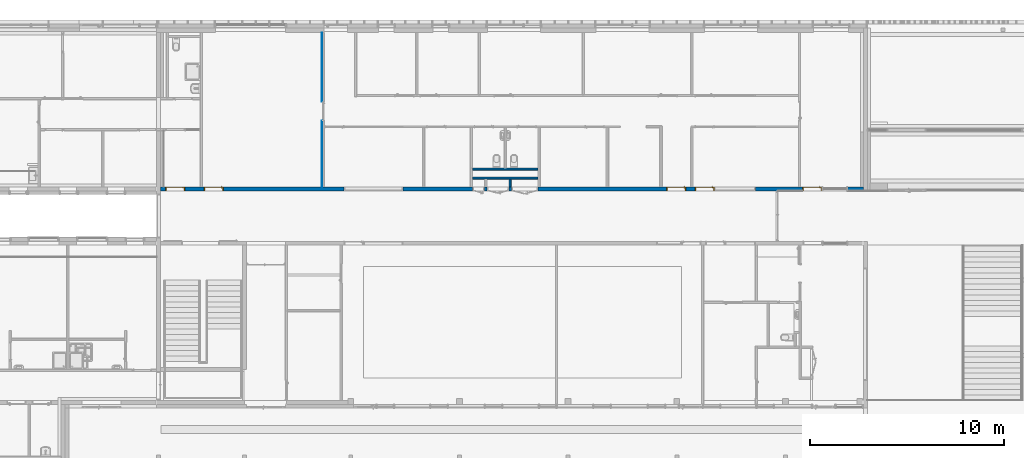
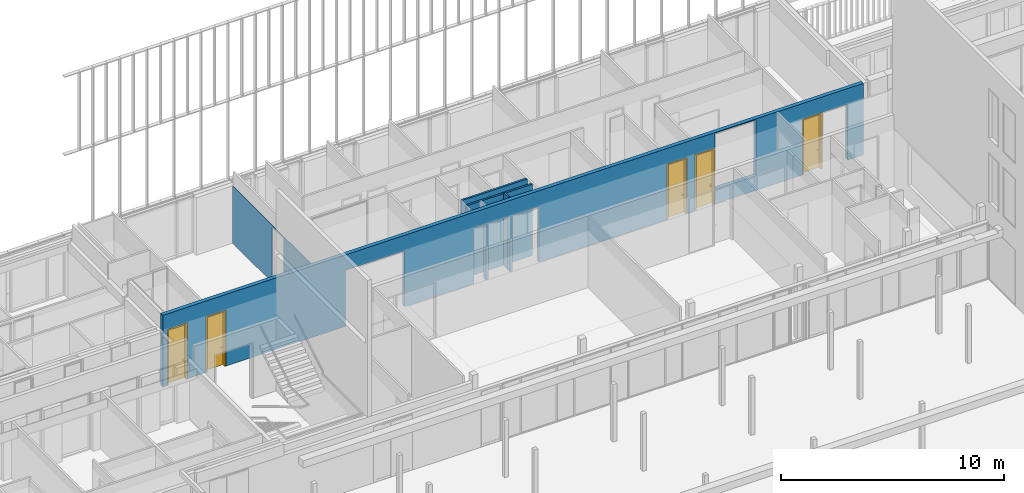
# One storey, part 137 of 240: 5 doors, 5 walls, 12 openings.
"""IFC2X3 building model written with IfcOpenShell, lengths in centimetres."""

from ifc_helpers import new_model, entity, si_unit, converted_unit, derived_unit, direction, frame, frame_2d, origin, place, context, subcontext, project, spatial, polyline, rectangle, extrude, clip, bounded_halfspace, faceted_brep, source, transform, mapped, material, material_list, layer, layer_set, layer_usage, type_object, type_shapes, element, fill, save


model = new_model("IFC2X3")

# Units and contexts
model_context = context("Model", 3, precision=0.001, world=origin(), true_north=direction((6.12303176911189e-17, 1.0)))
body_context = subcontext(model_context, "Body", "Model", "MODEL_VIEW")
ifc_project = project(units=[si_unit("LENGTHUNIT", "METRE", prefix="CENTI"), si_unit("AREAUNIT", "SQUARE_METRE"), si_unit("VOLUMEUNIT", "CUBIC_METRE"), converted_unit("PLANEANGLEUNIT", "DEGREE", entity("IfcRatioMeasure", 0.0174532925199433), si_unit("PLANEANGLEUNIT", "RADIAN"), dimensions=[0, 0, 0, 0, 0, 0, 0]), si_unit("MASSUNIT", "GRAM", prefix="KILO"), derived_unit("MASSDENSITYUNIT", [(si_unit("MASSUNIT", "GRAM", prefix="KILO"), 1), (si_unit("LENGTHUNIT", "METRE"), -3)]), si_unit("TIMEUNIT", "SECOND"), si_unit("FREQUENCYUNIT", "HERTZ"), si_unit("THERMODYNAMICTEMPERATUREUNIT", "DEGREE_CELSIUS"), derived_unit("THERMALTRANSMITTANCEUNIT", [(si_unit("MASSUNIT", "GRAM", prefix="KILO"), 1), (si_unit("THERMODYNAMICTEMPERATUREUNIT", "KELVIN"), -1), (si_unit("TIMEUNIT", "SECOND"), -3)]), derived_unit("VOLUMETRICFLOWRATEUNIT", [(si_unit("LENGTHUNIT", "METRE"), 3), (si_unit("TIMEUNIT", "SECOND"), -1)]), si_unit("ELECTRICCURRENTUNIT", "AMPERE"), si_unit("ELECTRICVOLTAGEUNIT", "VOLT"), si_unit("POWERUNIT", "WATT"), si_unit("FORCEUNIT", "NEWTON", prefix="KILO"), si_unit("ILLUMINANCEUNIT", "LUX"), si_unit("LUMINOUSFLUXUNIT", "LUMEN"), si_unit("LUMINOUSINTENSITYUNIT", "CANDELA"), derived_unit("USERDEFINED", [(si_unit("MASSUNIT", "GRAM", prefix="KILO"), -1), (si_unit("LENGTHUNIT", "METRE"), -2), (si_unit("TIMEUNIT", "SECOND"), 3), (si_unit("LUMINOUSFLUXUNIT", "LUMEN"), 1)]), derived_unit("LINEARVELOCITYUNIT", [(si_unit("LENGTHUNIT", "METRE"), 1), (si_unit("TIMEUNIT", "SECOND"), -1)]), si_unit("PRESSUREUNIT", "PASCAL"), derived_unit("USERDEFINED", [(si_unit("LENGTHUNIT", "METRE"), -2), (si_unit("MASSUNIT", "GRAM", prefix="KILO"), 1), (si_unit("TIMEUNIT", "SECOND"), -2)])], contexts=[model_context])

# Site, building, storey
site_placement = place(None, frame((-2781.94577612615, 7442.24238424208, 0.0)))
site = spatial("IfcSite", under=ifc_project, at=site_placement, Name="Default", CompositionType="ELEMENT")
building_placement = place(site_placement, origin())
building = spatial("IfcBuilding", under=site, at=building_placement, CompositionType="ELEMENT")
storey_placement = place(building_placement, origin())
storey = spatial("IfcBuildingStorey", under=building, at=storey_placement, Name="N00 - COO", CompositionType="ELEMENT", Elevation=0.0)

# Wall, openings, doors
ifc_material_1 = material(Name="01 - Maçonnerie")
ifc_layer_1 = layer(ifc_material_1, 20.0)
ifc_layer_set_1 = layer_set([ifc_layer_1], Name="Mur de base:04 - Structure - béton - 20cm")
ifc_layer_usage_1 = layer_usage(ifc_layer_set_1, "AXIS2", "NEGATIVE", 10.0)
wall_type_1 = type_object("IfcWallType", Name="Mur de base:04 - Structure - béton - 20cm", PredefinedType="STANDARD", material=ifc_layer_set_1)
wall_1_placement = place(building_placement, frame((-8409.49987766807, -820.048500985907, 0.0)))
wall_1 = element("IfcWallStandardCase", 1, at=wall_1_placement, inside=storey, type_object=wall_type_1, material=ifc_layer_usage_1, Name="Mur de base:04 - Structure - béton - 20cm", ObjectType="Mur de base:04 - Structure - béton - 20cm", context=body_context, shape_type="Clipping", body=[
    clip(extrude(rectangle(XDim=3621.50000006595, YDim=20.0, at=frame_2d((1810.75000003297, -1.59872115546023e-14), x_axis=(-1.0, 0.0))), origin(), (0.0, 0.0, 1.0), 391.0), bounded_halfspace(frame((0.0, -10.0, 391.0), z_axis=(0.0, 0.0, -1.0), x_axis=(0.0, 1.0, 0.0)), True, frame((0.0, -10.0, 391.0), z_axis=(0.0, 0.0, -1.0), x_axis=(0.0, 1.0, 0.0)), polyline([(0.0, 0.0), (20.0, 0.0), (20.0, 205.0), (20.0, 215.0), (20.0, 833.250000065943), (20.0, 843.250000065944), (20.0, 1351.0), (20.0, 1361.0), (20.0, 1603.69999798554), (20.0, 1671.0), (20.0, 1680.69999798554), (20.0, 1799.69999798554), (20.0, 1946.0), (20.0, 1956.0), (20.0, 2296.0), (20.0, 2306.0), (20.0, 2573.0), (20.0, 2583.0), (20.0, 2733.0), (20.0, 2743.0), (20.0, 3287.0), (20.0, 3297.0), (20.0, 3621.50000006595), (0.0, 3621.50000006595), (0.0, 3182.0), (0.0, 3172.0), (0.0, 0.0)]))),
])
opening_1_placement = place(wall_1_placement, origin())
element("IfcOpeningElement", 2, at=opening_1_placement, cuts=wall_1, Name="Mur de base:04 - Structure - béton - 20cm", ObjectType="Opening", context=body_context, shape_type="SweptSolid", body=[
    extrude(rectangle(XDim=306.0, YDim=133.000000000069, at=frame_2d((0.0, 4.33431068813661e-13), x_axis=(1.0, 0.0))), frame((3473.50000006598, -25.24, 153.0), z_axis=(0.0, 1.0, 0.0), x_axis=(0.0, 0.0, 1.0)), (0.0, 0.0, 1.0), 50.48),
])
opening_2_placement = place(wall_1_placement, frame((225.0, -10.0, 0.0)))
opening_2 = element("IfcOpeningElement", 3, at=opening_2_placement, cuts=wall_1, Name="Int. Simple:PV (0.93m x 3.00m):1", ObjectType="Opening", context=body_context, shape_type="SweptSolid", body=[
    extrude(rectangle(XDim=304.500000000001, YDim=99.9999999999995, at=frame_2d((152.250000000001, 50.0), x_axis=(1.0, 0.0))), frame((0.0, 0.0, 0.0), z_axis=(0.0, 1.0, 0.0), x_axis=(0.0, 0.0, 1.0)), (0.0, 0.0, 1.0), 20.0),
])
opening_3_placement = place(wall_1_placement, frame((2608.0, -10.0, 0.0)))
opening_3 = element("IfcOpeningElement", 4, at=opening_3_placement, cuts=wall_1, Name="Int. Simple:PV (0.93m x 3.00m):1", ObjectType="Opening", context=body_context, shape_type="SweptSolid", body=[
    extrude(rectangle(XDim=304.500000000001, YDim=99.9999999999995, at=frame_2d((152.250000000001, 50.0), x_axis=(1.0, 0.0))), frame((0.0, 0.0, 0.0), z_axis=(0.0, 1.0, 0.0), x_axis=(0.0, 0.0, 1.0)), (0.0, 0.0, 1.0), 20.0),
])
opening_4_placement = place(wall_1_placement, frame((2753.0, -10.0, 0.0)))
opening_4 = element("IfcOpeningElement", 5, at=opening_4_placement, cuts=wall_1, Name="Int. Simple:PV (0.93m x 3.00m):1", ObjectType="Opening", context=body_context, shape_type="SweptSolid", body=[
    extrude(rectangle(XDim=304.500000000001, YDim=99.9999999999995, at=frame_2d((152.250000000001, 50.0), x_axis=(1.0, 0.0))), frame((0.0, 0.0, 0.0), z_axis=(0.0, 1.0, 0.0), x_axis=(0.0, 0.0, 1.0)), (0.0, 0.0, 1.0), 20.0),
])
opening_5_placement = place(wall_1_placement, frame((3307.0, -10.0, 0.0)))
opening_5 = element("IfcOpeningElement", 6, at=opening_5_placement, cuts=wall_1, Name="Int. Simple:PV (0.93m x 3.00m):1", ObjectType="Opening", context=body_context, shape_type="SweptSolid", body=[
    extrude(rectangle(XDim=304.500000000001, YDim=99.9999999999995, at=frame_2d((152.250000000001, 50.0), x_axis=(1.0, 0.0))), frame((0.0, 0.0, 0.0), z_axis=(0.0, 1.0, 0.0), x_axis=(0.0, 0.0, 1.0)), (0.0, 0.0, 1.0), 20.0),
])
opening_6_placement = place(wall_1_placement, frame((1944.50000006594, 10.0, 0.0)))
element("IfcOpeningElement", 7, at=opening_6_placement, cuts=wall_1, Name="Int. Double:PP Placard (1.26m x 2.04m):1", ObjectType="Opening", context=body_context, shape_type="SweptSolid", body=[
    extrude(rectangle(XDim=304.500000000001, YDim=137.0, at=frame_2d((152.250000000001, 68.5), x_axis=(1.0, 0.0))), frame((0.0, 0.0, 0.0), z_axis=(0.0, -1.0, 0.0), x_axis=(0.0, 0.0, 1.0)), (0.0, 0.0, 1.0), 20.0),
])
opening_7_placement = place(wall_1_placement, frame((1794.50000006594, 10.0, 0.0)))
element("IfcOpeningElement", 8, at=opening_7_placement, cuts=wall_1, Name="Int. Double:PP Placard (1.05m x 3.00m):1", ObjectType="Opening", context=body_context, shape_type="SweptSolid", body=[
    extrude(rectangle(XDim=304.500000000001, YDim=112.0, at=frame_2d((152.250000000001, 56.0000000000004), x_axis=(1.0, 0.0))), frame((0.0, 0.0, 0.0), z_axis=(0.0, -1.0, 0.0), x_axis=(0.0, 0.0, 1.0)), (0.0, 0.0, 1.0), 20.0),
])
opening_8_placement = place(wall_1_placement, frame((1669.50000006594, 10.0, 0.0)))
element("IfcOpeningElement", 9, at=opening_8_placement, cuts=wall_1, Name="Int. Simple:PP Placard (0.55m x 3.00m):1", ObjectType="Opening", context=body_context, shape_type="SweptSolid", body=[
    extrude(rectangle(XDim=304.500000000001, YDim=61.9999999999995, at=frame_2d((152.250000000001, 30.9999999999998), x_axis=(1.0, 0.0))), frame((0.0, 0.0, 0.0), z_axis=(0.0, -1.0, 0.0), x_axis=(0.0, 0.0, 1.0)), (0.0, 0.0, 1.0), 20.0),
])
opening_9_placement = place(wall_1_placement, frame((945.0, -10.0, 0.0)))
element("IfcOpeningElement", 10, at=opening_9_placement, cuts=wall_1, Name="châssis intérieur vitré:châssis intérieur vitré (h=306):1", ObjectType="Opening", context=body_context, shape_type="SweptSolid", body=[
    extrude(rectangle(XDim=306.0, YDim=304.999999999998, at=frame_2d((153.0, 152.499999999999), x_axis=(1.0, 0.0))), frame((0.0, 0.0, 0.0), z_axis=(0.0, 1.0, 0.0), x_axis=(0.0, 0.0, 1.0)), (0.0, 0.0, 1.0), 20.0),
])
opening_10_placement = place(wall_1_placement, frame((25.2999999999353, -10.0, 0.0)))
opening_10 = element("IfcOpeningElement", 11, at=opening_10_placement, cuts=wall_1, Name="Int. Simple:PV (0.93m x 3.00m):1", ObjectType="Opening", context=body_context, shape_type="SweptSolid", body=[
    extrude(rectangle(XDim=304.500000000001, YDim=99.9999999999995, at=frame_2d((152.250000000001, 50.0), x_axis=(1.0, 0.0))), frame((0.0, 0.0, 0.0), z_axis=(0.0, 1.0, 0.0), x_axis=(0.0, 0.0, 1.0)), (0.0, 0.0, 1.0), 20.0),
])
opening_11_placement = place(wall_1_placement, frame((2853.0, -10.0, 80.0)))
element("IfcOpeningElement", 12, at=opening_11_placement, cuts=wall_1, Name="châssis intérieur vitré:châssis intérieur vitré (h=306):1", ObjectType="Opening", context=body_context, shape_type="SweptSolid", body=[
    extrude(rectangle(XDim=306.0, YDim=212.0, at=frame_2d((153.0, 106.0), x_axis=(1.0, 0.0))), frame((0.0, 0.0, 0.0), z_axis=(0.0, 1.0, 0.0), x_axis=(0.0, 0.0, 1.0)), (0.0, 0.0, 1.0), 20.0),
])
ifc_material_2 = material(Name="Finition Peinture - Blanc satiné")
ifc_material_3 = material(Name="Bois - Panneau de porte")
ifc_material_4 = material(Name="Bois - Cadre de porte")
ifc_material_list_1 = material_list([ifc_material_2, ifc_material_3, ifc_material_4])
ifc_material_list_2 = material_list([ifc_material_2, ifc_material_3, ifc_material_4])
door_style = type_object("IfcDoorStyle", Name="PV (0.93m x 3.00m)", ConstructionType="NOTDEFINED", OperationType="SINGLE_SWING_LEFT", ParameterTakesPrecedence=False, Sizeable=False, material=ifc_material_list_2)
shared_shape = source(origin(), body_context, "Body", "Brep", [
    faceted_brep([(10.5352761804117, -0.500000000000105, 86.6003983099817), (11.5000000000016, -0.500000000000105, 87.0), (11.5000000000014, -0.500000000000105, 108.0), (10.5352761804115, -0.500000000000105, 108.399601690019), (9.50000000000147, -0.500000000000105, 108.535898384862), (8.46472381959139, -0.500000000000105, 108.399601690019), (7.50000000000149, -0.500000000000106, 108.0), (7.50000000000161, -0.500000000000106, 87.0), (8.46472381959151, -0.500000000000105, 86.6003983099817), (9.50000000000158, -0.500000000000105, 86.464101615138), (10.5352761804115, 0.0, 108.399601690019), (11.5000000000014, 0.0, 108.0), (11.5000000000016, 0.0, 87.0), (10.5352761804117, 0.0, 86.6003983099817), (9.50000000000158, 0.0, 86.464101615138), (8.46472381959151, 0.0, 86.6003983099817), (7.50000000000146, 0.0, 87.0), (7.50000000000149, 0.0, 108.0), (8.46472381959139, 0.0, 108.399601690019), (9.50000000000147, 0.0, 108.535898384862)], [[[0, 1, 2, 3, 4, 5, 6, 7, 8, 9]], [[10, 11, 12, 13, 14, 15, 16, 17, 18, 19]], [[16, 15, 8, 7]], [[8, 15, 14, 9]], [[14, 13, 0, 9]], [[13, 12, 1, 0]], [[2, 1, 12, 11]], [[11, 10, 3, 2]], [[3, 10, 19, 4]], [[19, 18, 5, 4]], [[18, 17, 6, 5]], [[7, 6, 17, 16]]]),
    faceted_brep([(10.5352761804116, 4.0, 86.6003983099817), (11.5000000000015, 4.0, 87.0), (11.5000000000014, 4.0, 108.0), (10.5352761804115, 4.0, 108.399601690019), (9.50000000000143, 4.0, 108.535898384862), (8.46472381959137, 4.0, 108.399601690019), (7.50000000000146, 4.0, 108.0), (7.50000000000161, 4.0, 87.0), (8.46472381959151, 4.0, 86.6003983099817), (9.50000000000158, 4.0, 86.464101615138), (10.5352761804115, 4.49999999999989, 108.399601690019), (11.5000000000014, 4.49999999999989, 108.0), (11.5000000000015, 4.49999999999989, 87.0), (10.5352761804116, 4.49999999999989, 86.6003983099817), (9.50000000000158, 4.49999999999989, 86.464101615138), (8.46472381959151, 4.49999999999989, 86.6003983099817), (7.50000000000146, 4.49999999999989, 87.0), (7.50000000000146, 4.49999999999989, 108.0), (8.46472381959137, 4.49999999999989, 108.399601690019), (9.50000000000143, 4.49999999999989, 108.535898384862)], [[[0, 1, 2, 3, 4, 5, 6, 7, 8, 9]], [[10, 11, 12, 13, 14, 15, 16, 17, 18, 19]], [[11, 10, 3, 2]], [[3, 10, 19, 4]], [[19, 18, 5, 4]], [[18, 17, 6, 5]], [[7, 6, 17, 16]], [[16, 15, 8, 7]], [[8, 15, 14, 9]], [[14, 13, 0, 9]], [[13, 12, 1, 0]], [[2, 1, 12, 11]]]),
    faceted_brep([(9.29747013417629, -0.500000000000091, 100.778044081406), (9.70252986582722, -0.500000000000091, 100.778044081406), (10.1000000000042, -0.500000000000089, 100.699999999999), (10.1000000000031, -0.500000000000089, 99.3000000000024), (9.7025298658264, -0.500000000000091, 99.2219559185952), (9.29747013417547, -0.500000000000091, 99.221955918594), (8.8999999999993, -0.500000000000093, 99.2999999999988), (8.89999999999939, -0.500000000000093, 100.7), (8.89999999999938, -3.26509507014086, 100.7), (9.29747013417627, -3.10045754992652, 100.778044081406), (10.9023585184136, -4.70534593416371, 100.778044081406), (11.0701397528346, -4.30028620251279, 100.778044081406), (9.7025298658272, -2.93267631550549, 100.778044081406), (10.1000000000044, -2.76803879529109, 100.7), (10.1000000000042, -2.76803879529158, 99.3000000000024), (9.7025298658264, -2.93267631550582, 99.2219559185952), (11.0701397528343, -4.30028620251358, 99.2219559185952), (10.9023585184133, -4.70534593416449, 99.221955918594), (9.29747013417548, -3.10045754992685, 99.221955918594), (8.89999999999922, -3.26509507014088, 99.2999999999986), (10.7377209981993, -5.10281606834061, 100.7), (11.2347772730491, -3.90281606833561, 100.7), (11.2347772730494, -3.90281606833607, 99.3000000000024), (10.7377209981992, -5.10281606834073, 99.2999999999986), (19.5018640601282, -5.1028160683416, 99.2999999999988), (19.5018640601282, -4.70534593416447, 99.221955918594), (19.5018640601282, -4.30028620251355, 99.2219559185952), (19.5018640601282, -3.90281606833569, 99.3000000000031), (19.5018640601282, -3.90281606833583, 100.7), (19.5018640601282, -4.30028620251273, 100.778044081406), (19.5018640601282, -4.70534593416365, 100.778044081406), (19.5018640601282, -5.10281606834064, 100.699999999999), (14.7307697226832, -5.10281606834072, 100.7), (15.2860019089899, -4.5028160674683, 100.78786867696), (15.3683206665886, -3.9028160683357, 100.7), (15.3683206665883, -3.90281606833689, 99.3000000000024), (15.2860018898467, -4.50281607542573, 99.2121313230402), (14.7307700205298, -5.10281606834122, 99.2999999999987)], [[[0, 1, 2, 3, 4, 5, 6, 7]], [[8, 9, 0, 7]], [[9, 10, 11, 12, 1, 0]], [[12, 13, 2, 1]], [[3, 2, 13, 14]], [[14, 15, 4, 3]], [[15, 16, 17, 18, 5, 4]], [[18, 19, 6, 5]], [[7, 6, 19, 8]], [[20, 10, 9, 8]], [[11, 21, 13, 12]], [[14, 13, 21, 22]], [[22, 16, 15, 14]], [[17, 23, 19, 18]], [[8, 19, 23, 20]], [[24, 25, 26, 27, 28, 29, 30, 31]], [[32, 30, 33]], [[31, 30, 32]], [[10, 20, 32]], [[33, 34, 11]], [[21, 11, 34]], [[34, 29, 28]], [[30, 29, 33]], [[29, 34, 33]], [[10, 32, 33]], [[10, 33, 11]], [[22, 21, 34, 28, 27, 35]], [[35, 26, 36]], [[37, 36, 25]], [[22, 35, 16]], [[35, 27, 26]], [[24, 37, 25]], [[23, 17, 37]], [[37, 17, 36]], [[17, 16, 36]], [[16, 35, 36]], [[25, 36, 26]], [[20, 23, 37, 24, 31, 32]]]),
    faceted_brep([(9.29747013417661, 4.49999999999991, 100.778044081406), (8.89999999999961, 4.4999999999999, 100.7), (8.89999999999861, 4.4999999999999, 99.2999999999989), (9.29747013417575, 4.49999999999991, 99.221955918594), (9.70252986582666, 4.49999999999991, 99.2219559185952), (10.1000000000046, 4.49999999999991, 99.3000000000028), (10.1000000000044, 4.49999999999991, 100.7), (9.70252986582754, 4.49999999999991, 100.778044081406), (10.1000000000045, 6.7485204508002, 99.3000000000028), (10.1000000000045, 6.74852045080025, 100.7), (9.70252986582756, 6.91315797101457, 100.778044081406), (11.083890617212, 8.29451872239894, 100.778044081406), (10.916109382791, 8.69957845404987, 100.778044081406), (9.29747013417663, 7.0809392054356, 100.778044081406), (8.89999999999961, 7.24557672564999, 100.7), (8.89999999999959, 7.2455767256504, 99.2999999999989), (9.29747013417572, 7.08093920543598, 99.221955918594), (10.9161093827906, 8.69957845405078, 99.221955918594), (11.0838906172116, 8.29451872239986, 99.2219559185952), (9.70252986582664, 6.91315797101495, 99.2219559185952), (11.2485281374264, 7.89704858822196, 99.3000000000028), (11.2485281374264, 7.89704858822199, 100.7), (10.7514718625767, 9.09704858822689, 100.7), (10.7514718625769, 9.0970485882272, 99.2999999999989), (19.5045783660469, 7.89704858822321, 99.3000000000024), (19.5045783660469, 8.29451872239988, 99.2219559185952), (19.5045783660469, 8.6995784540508, 99.221955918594), (19.5045783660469, 9.09704858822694, 99.2999999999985), (19.5045783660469, 9.09704858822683, 100.7), (19.5045783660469, 8.69957845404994, 100.778044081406), (19.5045783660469, 8.29451872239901, 100.778044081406), (19.5045783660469, 7.89704858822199, 100.7), (15.3765520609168, 7.89704858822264, 99.3000000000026), (15.3765532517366, 7.89704858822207, 100.7), (15.294234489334, 8.49704858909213, 100.78786867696), (14.7445205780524, 9.09704858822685, 100.7), (14.7445204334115, 9.09704858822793, 99.2999999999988), (15.2942345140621, 8.49704858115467, 99.2121313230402)], [[[0, 1, 2, 3, 4, 5, 6, 7]], [[6, 5, 8, 9]], [[9, 10, 7, 6]], [[10, 11, 12, 13, 0, 7]], [[13, 14, 1, 0]], [[2, 1, 14, 15]], [[15, 16, 3, 2]], [[16, 17, 18, 19, 4, 3]], [[19, 8, 5, 4]], [[9, 8, 20, 21]], [[21, 11, 10, 9]], [[12, 22, 14, 13]], [[15, 14, 22, 23]], [[23, 17, 16, 15]], [[18, 20, 8, 19]], [[24, 25, 26, 27, 28, 29, 30, 31]], [[21, 20, 32, 24, 31, 33]], [[33, 30, 34]], [[35, 34, 29]], [[21, 33, 11]], [[33, 31, 30]], [[28, 35, 29]], [[22, 12, 35]], [[35, 12, 34]], [[12, 11, 34]], [[11, 33, 34]], [[29, 34, 30]], [[22, 35, 28, 27, 36, 23]], [[36, 26, 37]], [[27, 26, 36]], [[17, 23, 36]], [[37, 32, 18]], [[20, 18, 32]], [[32, 25, 24]], [[26, 25, 37]], [[25, 32, 37]], [[17, 36, 37]], [[17, 37, 18]]]),
    faceted_brep([(3.50000000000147, 4.0, 301.0), (96.5000000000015, 4.0, 301.0), (96.5000000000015, 4.0, 0.0), (3.50000000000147, 4.0, 0.0), (3.50000000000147, 0.0, 301.0), (3.50000000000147, 0.0, 0.0), (96.5000000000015, 0.0, 0.0), (96.5000000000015, 0.0, 301.0)], [[[0, 1, 2, 3]], [[4, 5, 6, 7]], [[1, 0, 4, 7]], [[2, 1, 7, 6]], [[3, 2, 6, 5]], [[0, 3, 5, 4]]]),
    faceted_brep([(0.0, 20.0, 0.0), (-1.50000000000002, 20.0, 0.0), (-1.50000000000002, 20.5000000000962, 0.0), (5.0, 20.5000000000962, 0.0), (5.0, 4.0, 0.0), (3.50000000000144, 4.0, 0.0), (3.50000000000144, -0.500000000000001, 0.0), (-1.50000000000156, -0.500000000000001, 0.0), (-1.50000000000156, 0.0, 0.0), (0.0, 0.0, 0.0), (0.0, 20.0, 304.500000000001), (100.0, 20.0, 304.500000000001), (100.0, 20.0, 0.0), (101.5, 20.0, 0.0), (101.5, 20.0, 306.0), (-1.50000000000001, 20.0, 306.0), (-1.50000000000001, 20.5000000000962, 306.0), (101.5, 20.5000000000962, 306.0), (101.5, 20.5000000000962, 0.0), (95.0, 20.5000000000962, 0.0), (95.0, 20.5000000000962, 299.5), (5.0, 20.5000000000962, 299.5), (5.0, 4.0, 299.5), (95.0, 4.0, 299.5), (95.0, 4.0, 0.0), (96.4999999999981, 4.0, 0.0), (96.4999999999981, 4.0, 301.0), (3.50000000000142, 4.0, 301.0), (3.50000000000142, -0.500000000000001, 301.0), (96.4999999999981, -0.500000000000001, 301.0), (96.4999999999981, -0.500000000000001, 0.0), (101.500000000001, -0.500000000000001, 0.0), (101.500000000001, -0.500000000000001, 306.0), (-1.50000000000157, -0.500000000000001, 306.0), (-1.50000000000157, 0.0, 306.0), (101.500000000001, 0.0, 306.0), (101.500000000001, 0.0, 0.0), (100.0, 0.0, 0.0), (100.0, 0.0, 304.500000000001), (0.0, 0.0, 304.500000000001)], [[[0, 1, 2, 3, 4, 5, 6, 7, 8, 9]], [[1, 0, 10, 11, 12, 13, 14, 15]], [[2, 1, 15, 16]], [[3, 2, 16, 17, 18, 19, 20, 21]], [[3, 21, 22, 4]], [[5, 4, 22, 23, 24, 25, 26, 27]], [[5, 27, 28, 6]], [[7, 6, 28, 29, 30, 31, 32, 33]], [[8, 7, 33, 34]], [[9, 8, 34, 35, 36, 37, 38, 39]], [[0, 9, 39, 10]], [[11, 38, 37, 12]], [[12, 37, 36, 31, 30, 25, 24, 19, 18, 13]], [[17, 14, 13, 18]], [[23, 20, 19, 24]], [[29, 26, 25, 30]], [[35, 32, 31, 36]], [[10, 39, 38, 11]], [[16, 15, 14, 17]], [[22, 21, 20, 23]], [[28, 27, 26, 29]], [[34, 33, 32, 35]]]),
])
type_shapes(door_style, [shared_shape])
door_1_placement = place(opening_2_placement, frame((100.0, 20.0, 0.0), z_axis=(0.0, 0.0, 1.0), x_axis=(-1.0, 0.0, 0.0)))
door_1 = element("IfcDoor", 13, at=door_1_placement, inside=storey, type_object=door_style, material=ifc_material_list_1, Name="Int. Simple:PV (0.93m x 3.00m)", ObjectType="Int. Simple:PV (0.93m x 3.00m)", OverallHeight=304.500000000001, OverallWidth=99.9999999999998, context=body_context, shape_type="MappedRepresentation", body=[
    mapped(shared_shape, transform((0.0, 0.0, 0.0), scale=1.0)),
])
fill(opening_2, door_1)
ifc_material_list_3 = material_list([ifc_material_2, ifc_material_3, ifc_material_4])
door_2_placement = place(opening_3_placement, frame((100.0, 20.0, 0.0), z_axis=(0.0, 0.0, 1.0), x_axis=(-1.0, 0.0, 0.0)))
door_2 = element("IfcDoor", 14, at=door_2_placement, inside=storey, type_object=door_style, material=ifc_material_list_3, Name="Int. Simple:PV (0.93m x 3.00m)", ObjectType="Int. Simple:PV (0.93m x 3.00m)", OverallHeight=304.500000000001, OverallWidth=99.9999999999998, context=body_context, shape_type="MappedRepresentation", body=[
    mapped(shared_shape, transform((0.0, 0.0, 0.0), scale=1.0)),
])
fill(opening_3, door_2)
ifc_material_list_4 = material_list([ifc_material_2, ifc_material_3, ifc_material_4])
door_3_placement = place(opening_4_placement, frame((100.0, 20.0, 0.0), z_axis=(0.0, 0.0, 1.0), x_axis=(-1.0, 0.0, 0.0)))
door_3 = element("IfcDoor", 15, at=door_3_placement, inside=storey, type_object=door_style, material=ifc_material_list_4, Name="Int. Simple:PV (0.93m x 3.00m)", ObjectType="Int. Simple:PV (0.93m x 3.00m)", OverallHeight=304.500000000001, OverallWidth=99.9999999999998, context=body_context, shape_type="MappedRepresentation", body=[
    mapped(shared_shape, transform((0.0, 0.0, 0.0), scale=1.0)),
])
fill(opening_4, door_3)
ifc_material_list_5 = material_list([ifc_material_2, ifc_material_3, ifc_material_4])
door_4_placement = place(opening_5_placement, frame((100.0, 20.0, 0.0), z_axis=(0.0, 0.0, 1.0), x_axis=(-1.0, 0.0, 0.0)))
door_4 = element("IfcDoor", 16, at=door_4_placement, inside=storey, type_object=door_style, material=ifc_material_list_5, Name="Int. Simple:PV (0.93m x 3.00m)", ObjectType="Int. Simple:PV (0.93m x 3.00m)", OverallHeight=304.500000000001, OverallWidth=99.9999999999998, context=body_context, shape_type="MappedRepresentation", body=[
    mapped(shared_shape, transform((0.0, 0.0, 0.0), scale=1.0)),
])
fill(opening_5, door_4)
ifc_material_list_6 = material_list([ifc_material_2, ifc_material_3, ifc_material_4])
door_5_placement = place(opening_10_placement, frame((100.0, 20.0, 0.0), z_axis=(0.0, 0.0, 1.0), x_axis=(-1.0, 0.0, 0.0)))
door_5 = element("IfcDoor", 17, at=door_5_placement, inside=storey, type_object=door_style, material=ifc_material_list_6, Name="Int. Simple:PV (0.93m x 3.00m)", ObjectType="Int. Simple:PV (0.93m x 3.00m)", OverallHeight=304.500000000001, OverallWidth=99.9999999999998, context=body_context, shape_type="MappedRepresentation", body=[
    mapped(shared_shape, transform((0.0, 0.0, 0.0), scale=1.0)),
])
fill(opening_10, door_5)

# Walls
ifc_material_5 = material(Name="01 - Enduit/Plâtre")
ifc_layer_2 = layer(ifc_material_5, 1.3)
ifc_material_6 = material(Name="00 - Isolant")
ifc_layer_3 = layer(ifc_material_6, 7.4)
ifc_layer_4 = layer(ifc_material_5, 1.3)
ifc_layer_set_2 = layer_set([ifc_layer_2, ifc_layer_3, ifc_layer_4], Name="Mur de base:06 - cloisons - Ba13 10cm")
ifc_layer_usage_2 = layer_usage(ifc_layer_set_2, "AXIS2", "NEGATIVE", 5.0)
wall_type_2 = type_object("IfcWallType", Name="Mur de base:06 - cloisons - Ba13 10cm", PredefinedType="STANDARD", material=ifc_layer_set_2)
wall_2_placement = place(building_placement, frame((-6803.49987760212, -718.0, 0.0)))
element("IfcWallStandardCase", 18, at=wall_2_placement, inside=storey, type_object=wall_type_2, material=ifc_layer_usage_2, Name="Mur de base:06 - cloisons - Ba13 10cm", ObjectType="Mur de base:06 - cloisons - Ba13 10cm", context=body_context, shape_type="Clipping", body=[
    clip(extrude(rectangle(XDim=339.999999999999, YDim=10.0000000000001, at=frame_2d((169.999999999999, -1.55431223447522e-14), x_axis=(-1.0, 0.0))), origin(), (0.0, 0.0, 1.0), 391.0), bounded_halfspace(frame((0.0, -5.0, 391.0), z_axis=(0.0, 0.0, -1.0), x_axis=(0.0, 1.0, 0.0)), True, frame((0.0, -5.0, 391.0)), polyline([(0.0, 0.0), (340.0, 0.0), (340.0, 10.0), (175.0, 10.0), (165.0, 10.0), (0.0, 10.0), (0.0, 0.0)]))),
])
ifc_layer_usage_3 = layer_usage(ifc_layer_set_2, "AXIS2", "NEGATIVE", 5.0)
wall_3_placement = place(building_placement, frame((-6803.49987760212, -765.048500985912, 0.0)))
element("IfcWallStandardCase", 19, at=wall_3_placement, inside=storey, type_object=wall_type_2, material=ifc_layer_usage_3, Name="Mur de base:06 - cloisons - Ba13 10cm", ObjectType="Mur de base:06 - cloisons - Ba13 10cm", context=body_context, shape_type="Clipping", body=[
    clip(extrude(rectangle(XDim=339.999999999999, YDim=10.0000000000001, at=frame_2d((169.999999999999, 0.0), x_axis=(-1.0, 0.0))), origin(), (0.0, 0.0, 1.0), 391.0), bounded_halfspace(frame((0.0, -5.0, 391.0), z_axis=(0.0, 0.0, -1.0), x_axis=(0.0, 1.0, 0.0)), True, frame((0.0, -5.0, 391.0)), polyline([(0.0, 0.0), (65.0, 0.0), (74.6999979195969, 0.0), (193.699997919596, 0.0), (340.0, 0.0), (340.0, 10.0), (0.0, 10.0), (0.0, 0.0)]))),
])
ifc_layer_usage_4 = layer_usage(ifc_layer_set_2, "AXIS2", "NEGATIVE", 5.0)
wall_4_placement = place(building_placement, frame((-6608.49987760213, -770.048500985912, 0.0), z_axis=(0.0, 0.0, 1.0), x_axis=(0.0, -1.0, 0.0)))
element("IfcWallStandardCase", 20, at=wall_4_placement, inside=storey, type_object=wall_type_2, material=ifc_layer_usage_4, Name="Mur de base:06 - cloisons - Ba13 10cm", ObjectType="Mur de base:06 - cloisons - Ba13 10cm", context=body_context, shape_type="SweptSolid", body=[
    extrude(rectangle(XDim=40.0, YDim=9.99999999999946, at=frame_2d((20.0, 0.0), x_axis=(-1.0, 0.0))), origin(), (0.0, 0.0, 1.0), 396.0),
])

# Wall, opening
ifc_material_7 = material(Name="Pin")
ifc_layer_5 = layer(ifc_material_7, 2.0)
ifc_layer_set_3 = layer_set([ifc_layer_5], Name="Mur de base:06 - habillage bois collée 2cm")
ifc_layer_usage_5 = layer_usage(ifc_layer_set_3, "AXIS2", "NEGATIVE", 1.0)
wall_type_3 = type_object("IfcWallType", Name="Mur de base:06 - habillage bois collée 2cm", PredefinedType="STANDARD", material=ifc_layer_set_3)
wall_5_placement = place(building_placement, frame((-7577.24987760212, -15.0, 0.0), z_axis=(0.0, 0.0, 1.0), x_axis=(0.0, -1.0, 0.0)))
wall_5 = element("IfcWallStandardCase", 21, at=wall_5_placement, inside=storey, type_object=wall_type_3, material=ifc_layer_usage_5, Name="Mur de base:06 - habillage bois collée 2cm", ObjectType="Mur de base:06 - habillage bois collée 2cm", context=body_context, shape_type="SweptSolid", body=[
    extrude(rectangle(XDim=795.048500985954, YDim=1.99999999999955, at=frame_2d((397.524250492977, 0.0), x_axis=(-1.0, 0.0))), origin(), (0.0, 0.0, 1.0), 313.0),
])
opening_12_placement = place(wall_5_placement, origin())
element("IfcOpeningElement", 22, at=opening_12_placement, cuts=wall_5, Name="Mur de base:06 - habillage bois collée 2cm", ObjectType="Opening", context=body_context, shape_type="SweptSolid", body=[
    extrude(rectangle(XDim=304.500000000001, YDim=99.9999999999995, at=frame_2d((-2.8421709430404e-14, 0.0), x_axis=(0.0, 1.0))), frame((405.0, -141.4, 152.250000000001), z_axis=(0.0, 1.0, 0.0), x_axis=(-1.0, 0.0, 0.0)), (0.0, 0.0, 1.0), 304.8),
])

save(model, "model.ifc")
